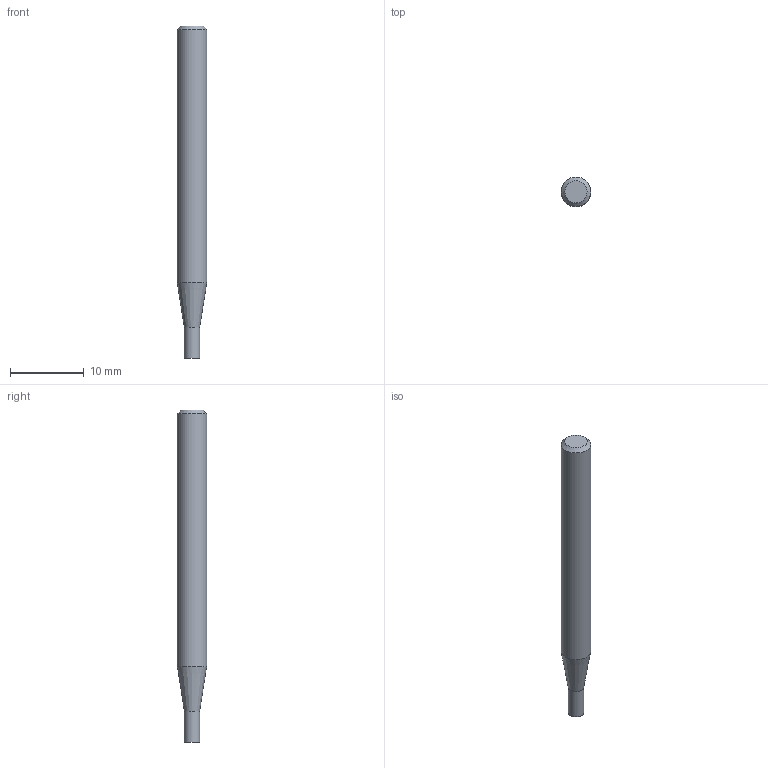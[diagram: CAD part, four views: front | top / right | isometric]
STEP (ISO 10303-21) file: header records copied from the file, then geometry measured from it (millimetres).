
FILE_DESCRIPTION((''),'2;1');
FILE_NAME('C:\Users\nsx150\AppData\Local\Temp\Mastercam 2021\QTW1OOEEGF\TEMP.step','2021-04-08T10:36:34',(''),(''),'STEP Write','Mastercam 2021 ... CNC Software, Inc.','');
FILE_SCHEMA(('AUTOMOTIVE_DESIGN'));
Length unit declared in the file: millimetre
Products named in the file (1): None
Bounding box: 4 x 4 x 45 mm (x, y, z)
Volume: 495.7 mm3; surface area: 542.2 mm2
Topology: 2 solids, 2 shells, 8 faces, 10 edges, 6 vertices
Faces by surface type: plane 4, cylinder 2, cone 2
Full cylindrical faces by diameter (mm): 2.1 x1, 4 x1
Entity records: 190 total; most frequent: DIRECTION 32, CARTESIAN_POINT 22, AXIS2_PLACEMENT_3D 16, ORIENTED_EDGE 12, EDGE_LOOP 12, STYLED_ITEM 11, ADVANCED_FACE 8, VERTEX_POINT 6
